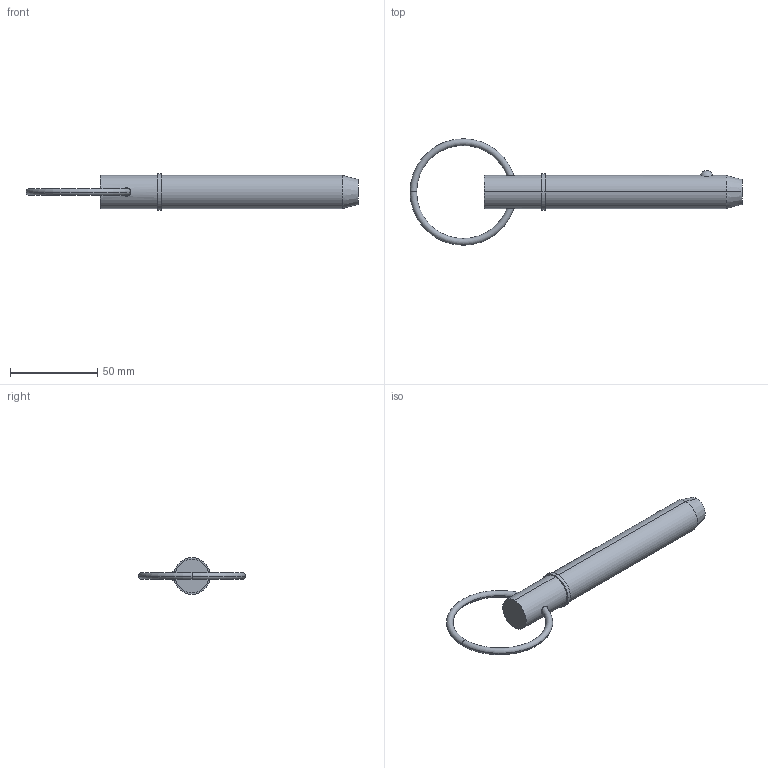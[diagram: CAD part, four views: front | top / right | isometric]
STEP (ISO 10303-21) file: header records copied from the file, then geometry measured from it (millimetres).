
FILE_DESCRIPTION (( 'STEP AP203' ), '1' );
FILE_NAME ('33016.W7535.step', '2024-11-07T11:14:43', ( '' ), ( '' ), 'SwSTEP 2.0', 'SolidWorks 2019', '' );
FILE_SCHEMA (( 'CONFIG_CONTROL_DESIGN' ));
Length unit declared in the file: millimetre
Products named in the file (3): 33016.W7535; Part2_33016.W7535; Part1_33016.W7535
Assembly tree (2 placements, depth 2):
  33016.W7535
    Part1_33016.W7535
    Part2_33016.W7535
Bounding box: 190.1 x 60.96 x 20.95 mm (x, y, z)
Volume: 43384.5 mm3; surface area: 11787 mm2
Topology: 2 solids, 2 shells, 22 faces, 43 edges, 26 vertices
Faces by surface type: torus 8, cylinder 6, plane 4, sphere 2, cone 2
Entity records: 1053 total; most frequent: CARTESIAN_POINT 276, DIRECTION 120, ORIENTED_EDGE 86, AXIS2_PLACEMENT_3D 56, EDGE_CURVE 43, CIRCLE 29, EDGE_LOOP 27, VERTEX_POINT 26
